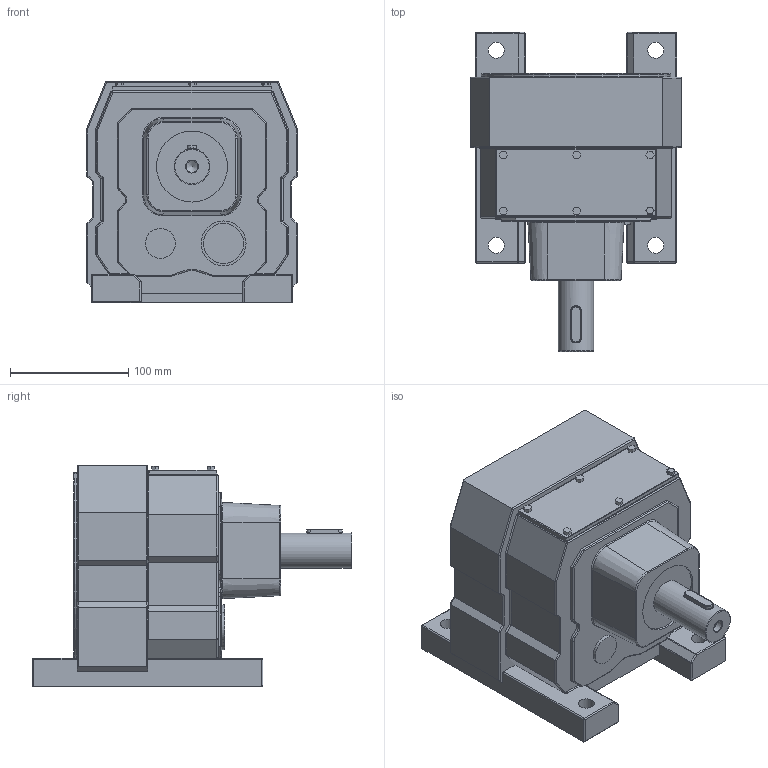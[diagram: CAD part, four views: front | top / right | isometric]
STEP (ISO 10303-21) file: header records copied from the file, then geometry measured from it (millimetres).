
FILE_DESCRIPTION((''),'2;1');
FILE_NAME('D:\PAWEŁ\ZLECENIA\2011 DualSystem\Przekładnie DR\DR40\STEP\DR40.stp','2012-06-11T11:54:16',('admin'),(''),'Autodesk Inventor 2009','Autodesk Inventor 2009','');
FILE_SCHEMA(('AUTOMOTIVE_DESIGN { 1 0 10303 214 1 1 1 1 }'));
Length unit declared in the file: millimetre
Products named in the file (1): DR40
Bounding box: 178 x 270 x 187 mm (x, y, z)
Volume: 4133841 mm3; surface area: 213191.8 mm2
Topology: 2 solids, 2 shells, 370 faces, 875 edges, 508 vertices
Faces by surface type: cylinder 163, plane 142, sphere 24, torus 19, bspline 18, cone 4
Full cylindrical faces by diameter (mm): 13.5 x4, 18.5 x4, 25.333 x1, 30 x1, 34 x1, 38 x1, 60 x1, 120 x1, 160 x1
Entity records: 11417 total; most frequent: CARTESIAN_POINT 2865, DIRECTION 1835, ORIENTED_EDGE 1660, EDGE_CURVE 830, AXIS2_PLACEMENT_3D 664, VECTOR 507, LINE 507, VERTEX_POINT 506
